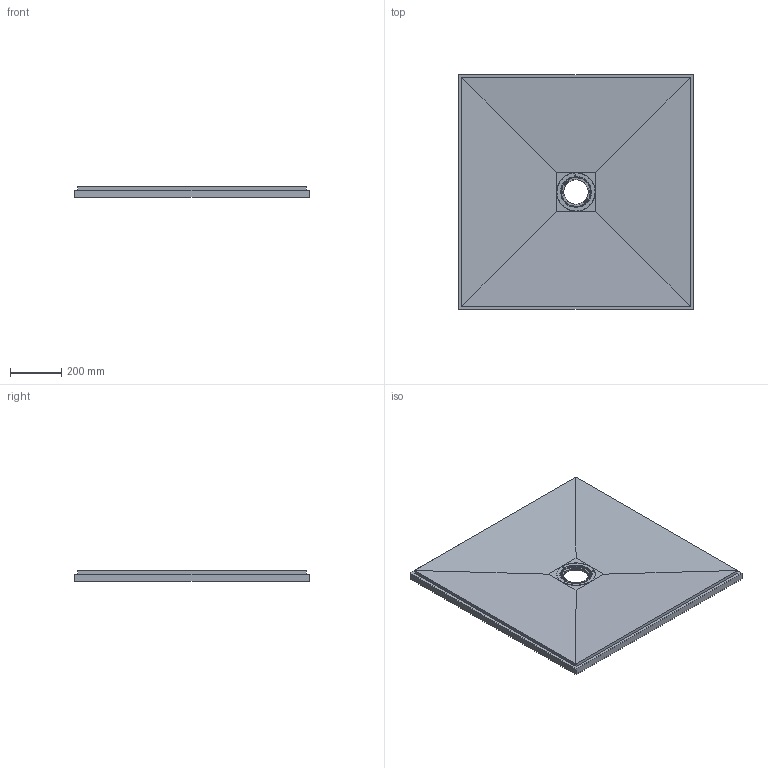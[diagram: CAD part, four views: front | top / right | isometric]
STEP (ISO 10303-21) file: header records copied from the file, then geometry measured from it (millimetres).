
FILE_DESCRIPTION(/* description */ ('Fertigteil'),/* implementation_level */ '2;1');
FILE_NAME(/* name */ 'C:\Users\fuser-vault-job\AppData\Local\Temp\MuM_chbnbkjh.qkj\D-000000811.iam_.step',/* time_stamp */ '2022-07-14T08:18:41+02:00',/* author */ ('ds'),/* organization */ (''),/* preprocessor_version */ 'ST-DEVELOPER v18.1',/* originating_system */ 'Autodesk Inventor 2020',/* authorisation */ '');
FILE_SCHEMA (('AUTOMOTIVE_DESIGN { 1 0 10303 214 3 1 1 }'));
Products named in the file (3): 073740052; 073740052_1; DD0000003
Assembly tree (2 placements, depth 2):
  073740052
    073740052_1
    DD0000003
Bounding box: 914.4 x 914.4 x 40 mm (x, y, z)
Volume: 27086859.9 mm3; surface area: 1843223.4 mm2
Topology: 2 solids, 2 shells, 743 faces, 2189 edges, 1474 vertices
Faces by surface type: bspline 372, torus 115, cone 78, cylinder 76, plane 68, sphere 34
Full cylindrical faces by diameter (mm): 6 x3, 151 x1
Entity records: 63140 total; most frequent: CARTESIAN_POINT 44892, ORIENTED_EDGE 4322, DIRECTION 3297, EDGE_CURVE 2161, VERTEX_POINT 1456, AXIS2_PLACEMENT_3D 1338, CIRCLE 812, EDGE_LOOP 803
